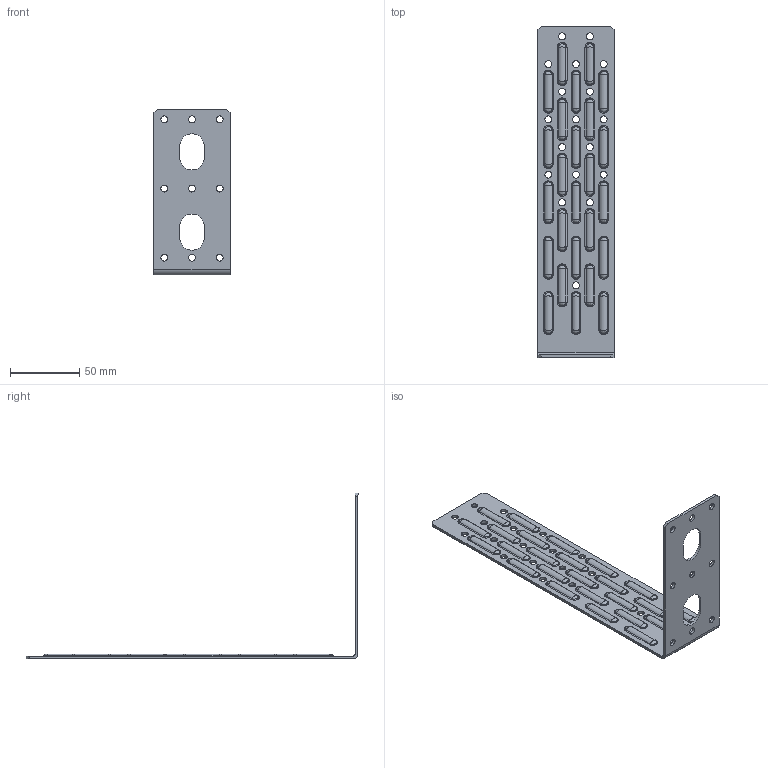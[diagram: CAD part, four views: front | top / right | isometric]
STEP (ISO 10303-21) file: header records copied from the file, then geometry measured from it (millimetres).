
FILE_DESCRIPTION (( 'STEP AP203' ), '1' );
FILE_NAME ('110850.STEP', '2020-01-17T13:49:49', ( '' ), ( '' ), 'SwSTEP 2.0', 'SolidWorks 2013', '' );
FILE_SCHEMA (( 'CONFIG_CONTROL_DESIGN' ));
Length unit declared in the file: millimetre
Products named in the file (1): 110850
Bounding box: 55 x 240 x 120 mm (x, y, z)
Volume: 36749.2 mm3; surface area: 41156.3 mm2
Topology: 1 solids, 1 shells, 451 faces, 997 edges, 598 vertices
Faces by surface type: bspline 225, cylinder 210, plane 16
Entity records: 28529 total; most frequent: CARTESIAN_POINT 19572, ORIENTED_EDGE 1994, DIRECTION 1496, EDGE_CURVE 997, VERTEX_POINT 598, AXIS2_PLACEMENT_3D 597, EDGE_LOOP 559, FACE_OUTER_BOUND 451
